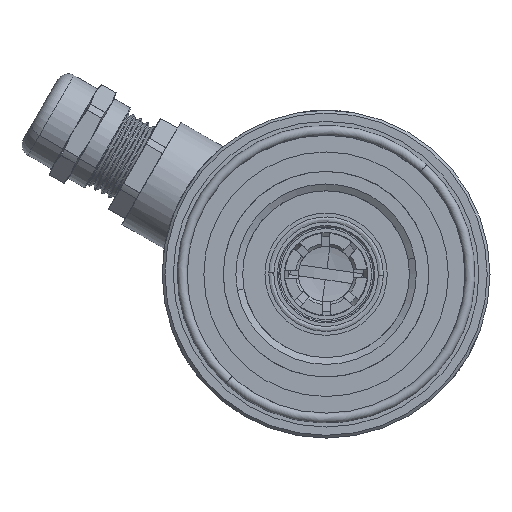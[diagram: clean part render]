
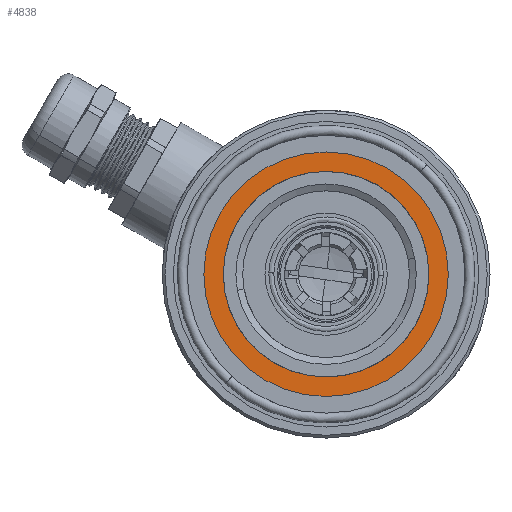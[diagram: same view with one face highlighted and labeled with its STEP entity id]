
A CAD part, front view. The second image highlights one B-rep face of the part: STEP entity #4838.
In plain terms, the highlighted planar face has unit normal (0, -1, 0).
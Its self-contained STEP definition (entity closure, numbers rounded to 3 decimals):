
#198 = CIRCLE ( 'NONE', #6340, 22. ) ;
#590 = CARTESIAN_POINT ( 'NONE',  ( 0., 9., 0. ) ) ;
#664 = CARTESIAN_POINT ( 'NONE',  ( 0., 9., 0. ) ) ;
#674 = ORIENTED_EDGE ( 'NONE', *, *, #5887, .F. ) ;
#1242 = AXIS2_PLACEMENT_3D ( 'NONE', #10121, #7324, #3539 ) ;
#1757 = CARTESIAN_POINT ( 'NONE',  ( 0., 9., 22. ) ) ;
#2434 = CARTESIAN_POINT ( 'NONE',  ( 0., 9., 0. ) ) ;
#2571 = DIRECTION ( 'NONE',  ( 0., 0., -1. ) ) ;
#2630 = DIRECTION ( 'NONE',  ( 0., -1., 0. ) ) ;
#3124 = AXIS2_PLACEMENT_3D ( 'NONE', #11004, #7959, #8835 ) ;
#3370 = DIRECTION ( 'NONE',  ( 0., -1., 0. ) ) ;
#3514 = DIRECTION ( 'NONE',  ( 0., 0., -1. ) ) ;
#3539 = DIRECTION ( 'NONE',  ( 0., 0., -1. ) ) ;
#3570 = ORIENTED_EDGE ( 'NONE', *, *, #7068, .F. ) ;
#3596 = CARTESIAN_POINT ( 'NONE',  ( 0., 9., -22. ) ) ;
#4025 = EDGE_CURVE ( 'NONE', #10263, #6645, #12247, .T. ) ;
#4838 = ADVANCED_FACE ( 'NONE', ( #8405, #12202 ), #9083, .T. ) ;
#5714 = EDGE_LOOP ( 'NONE', ( #5884, #10212 ) ) ;
#5884 = ORIENTED_EDGE ( 'NONE', *, *, #4025, .T. ) ;
#5887 = EDGE_CURVE ( 'NONE', #11158, #8867, #12207, .T. ) ;
#6340 = AXIS2_PLACEMENT_3D ( 'NONE', #664, #9156, #3514 ) ;
#6645 = VERTEX_POINT ( 'NONE', #1757 ) ;
#6909 = CARTESIAN_POINT ( 'NONE',  ( 0., 9., 18.5 ) ) ;
#7068 = EDGE_CURVE ( 'NONE', #8867, #11158, #11744, .T. ) ;
#7324 = DIRECTION ( 'NONE',  ( 0., -1., 0. ) ) ;
#7959 = DIRECTION ( 'NONE',  ( 0., -1., 0. ) ) ;
#8405 = FACE_BOUND ( 'NONE', #10132, .T. ) ;
#8429 = CARTESIAN_POINT ( 'NONE',  ( 0., 9., -18.5 ) ) ;
#8835 = DIRECTION ( 'NONE',  ( 0., 0., -1. ) ) ;
#8867 = VERTEX_POINT ( 'NONE', #6909 ) ;
#9083 = PLANE ( 'NONE',  #10784 ) ;
#9156 = DIRECTION ( 'NONE',  ( 0., -1., 0. ) ) ;
#9216 = AXIS2_PLACEMENT_3D ( 'NONE', #2434, #3370, #10940 ) ;
#10121 = CARTESIAN_POINT ( 'NONE',  ( 0., 9., 0. ) ) ;
#10132 = EDGE_LOOP ( 'NONE', ( #674, #3570 ) ) ;
#10212 = ORIENTED_EDGE ( 'NONE', *, *, #11563, .T. ) ;
#10263 = VERTEX_POINT ( 'NONE', #3596 ) ;
#10784 = AXIS2_PLACEMENT_3D ( 'NONE', #590, #2630, #2571 ) ;
#10940 = DIRECTION ( 'NONE',  ( 0., 0., -1. ) ) ;
#11004 = CARTESIAN_POINT ( 'NONE',  ( 0., 9., 0. ) ) ;
#11158 = VERTEX_POINT ( 'NONE', #8429 ) ;
#11563 = EDGE_CURVE ( 'NONE', #6645, #10263, #198, .T. ) ;
#11744 = CIRCLE ( 'NONE', #1242, 18.5 ) ;
#12202 = FACE_OUTER_BOUND ( 'NONE', #5714, .T. ) ;
#12207 = CIRCLE ( 'NONE', #9216, 18.5 ) ;
#12247 = CIRCLE ( 'NONE', #3124, 22. ) ;
